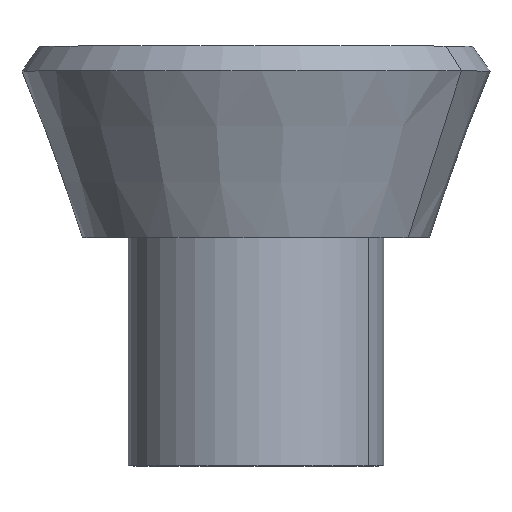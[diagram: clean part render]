
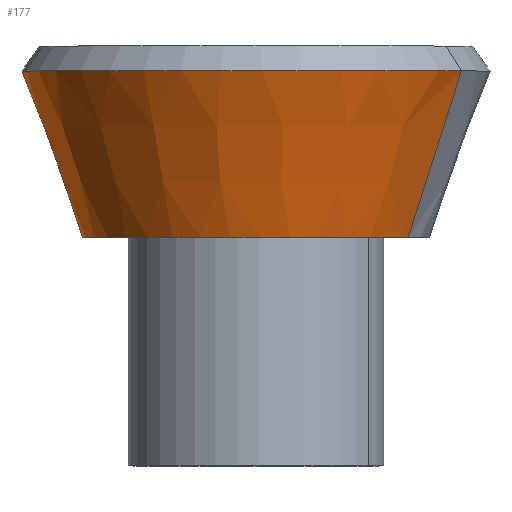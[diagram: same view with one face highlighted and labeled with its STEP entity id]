
A CAD part, top view. The second image highlights one B-rep face of the part: STEP entity #177.
In plain terms, the highlighted conical face has half-angle 20 degrees and reference radius 114 mm.
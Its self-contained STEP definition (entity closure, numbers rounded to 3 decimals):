
#114=CARTESIAN_POINT('Axis2P3D Location',(0.,0.,0.)) ;
#118=CARTESIAN_POINT('Vertex',(100.044,0.,54.655)) ;
#120=CARTESIAN_POINT('Vertex',(-100.044,0.,-54.655)) ;
#147=CARTESIAN_POINT('Axis2P3D Location',(0.,0.,0.)) ;
#152=CARTESIAN_POINT('Line Origine',(117.538,54.768,64.211)) ;
#156=CARTESIAN_POINT('Vertex',(135.032,109.536,73.768)) ;
#159=CARTESIAN_POINT('Axis2P3D Location',(0.,109.536,0.)) ;
#163=CARTESIAN_POINT('Vertex',(-135.032,109.536,-73.768)) ;
#166=CARTESIAN_POINT('Line Origine',(-117.538,54.768,-64.211)) ;
#115=DIRECTION('Axis2P3D Direction',(0.,-1.,0.)) ;
#148=DIRECTION('Axis2P3D Direction',(-0.,1.,-0.)) ;
#149=DIRECTION('Axis2P3D XDirection',(0.878,0.,0.479)) ;
#153=DIRECTION('Vector Direction',(0.3,0.94,0.164)) ;
#160=DIRECTION('Axis2P3D Direction',(0.,1.,-0.)) ;
#167=DIRECTION('Vector Direction',(-0.3,0.94,-0.164)) ;
#116=AXIS2_PLACEMENT_3D('Circle Axis2P3D',#114,#115,$) ;
#150=AXIS2_PLACEMENT_3D('Cone Axis2P3D',#147,#148,#149) ;
#161=AXIS2_PLACEMENT_3D('Circle Axis2P3D',#159,#160,$) ;
#172=ORIENTED_EDGE('',*,*,#122,.F.) ;
#173=ORIENTED_EDGE('',*,*,#158,.T.) ;
#174=ORIENTED_EDGE('',*,*,#165,.T.) ;
#175=ORIENTED_EDGE('',*,*,#170,.F.) ;
#154=VECTOR('Line Direction',#153,1.) ;
#168=VECTOR('Line Direction',#167,1.) ;
#177=ADVANCED_FACE('PartBody',(#176),#151,.T.) ;
#117=CIRCLE('generated circle',#116,114.) ;
#162=CIRCLE('generated circle',#161,153.868) ;
#151=CONICAL_SURFACE('Cone',#150,114.,0.349) ;
#122=EDGE_CURVE('',#119,#121,#117,.T.) ;
#158=EDGE_CURVE('',#119,#157,#155,.T.) ;
#165=EDGE_CURVE('',#157,#164,#162,.F.) ;
#170=EDGE_CURVE('',#121,#164,#169,.T.) ;
#171=EDGE_LOOP('',(#172,#173,#174,#175)) ;
#176=FACE_OUTER_BOUND('',#171,.T.) ;
#155=LINE('Line',#152,#154) ;
#169=LINE('Line',#166,#168) ;
#119=VERTEX_POINT('',#118) ;
#121=VERTEX_POINT('',#120) ;
#157=VERTEX_POINT('',#156) ;
#164=VERTEX_POINT('',#163) ;
